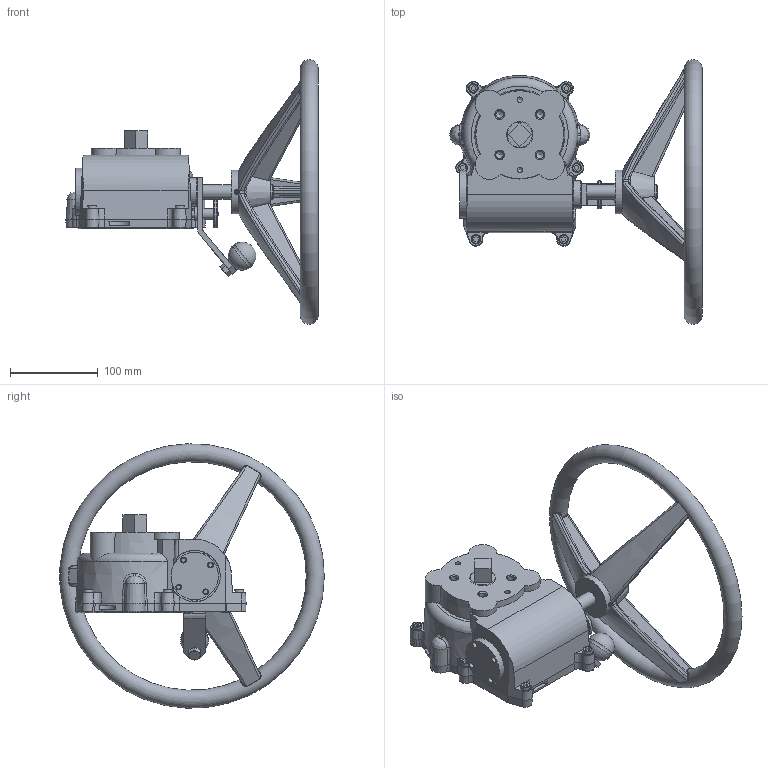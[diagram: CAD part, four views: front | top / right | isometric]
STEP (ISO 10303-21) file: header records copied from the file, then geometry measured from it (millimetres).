
FILE_DESCRIPTION( ( 'Unknown' ), '1' );
FILE_NAME( 'Z:/3D Models for Customers/K BOX/SIMPLE 09 Kbox LH.stp', 'Unknown', ( 'Unknown' ), ( 'Unknown' ), 'PSStep 17.0.49', 'Unknown', ' ' );
FILE_SCHEMA( ( 'AUTOMOTIVE_DESIGN { 1 0 10303 214 1 1 1 1 }' ) );
Length unit declared in the file: millimetre
Products named in the file (25): 93000010 Declutch Lever Assembly; 93007001 RH Lever for K-Box; 654055 Ball Knob 32dia RS686-036; M8x16 hex.hd.; 93008 Detent Housing; 93010 Flat Knob; 93009 Detent; Assem1; 93023001 Handwheel 300 M.C; 93015 Gearbox End Plate; 608183200 5 Dia x 45 Spring Pin; 606558070 Oring 161.16 I.D x 1.78 sect Formed for K-Box; M6x20; 608900100 12 Dia x 26; 93014 Gearbox Shaft; 93005002 LH Eccentric Bearing Long; 93003024 Model 09 K-Box Housing M.C; 93004003 Model 09 Base Plate M.C; DUMMY 09 SHAFT
Assembly tree (30 placements, depth 3):
  Assem1
    93023001 Handwheel 300 M.C
    93015 Gearbox End Plate
    608183200 5 Dia x 45 Spring Pin
    608183200 5 Dia x 45 Spring Pin
    608183200 5 Dia x 45 Spring Pin
    608183200 5 Dia x 45 Spring Pin
    608183200 5 Dia x 45 Spring Pin
    608183200 5 Dia x 45 Spring Pin
    608183200 5 Dia x 45 Spring Pin
    606558070 Oring 161.16 I.D x 1.78 sect Formed for K-Box
    M6x20  x6
    608900100 12 Dia x 26  x2
    93014 Gearbox Shaft
    93005002 LH Eccentric Bearing Long
    93003024 Model 09 K-Box Housing M.C
    93004003 Model 09 Base Plate M.C
    DUMMY 09 SHAFT
    93000010 Declutch Lever Assembly
      93007001 RH Lever for K-Box
      654055 Ball Knob 32dia RS686-036
      M8x16 hex.hd.
      93008 Detent Housing
      93010 Flat Knob
      93009 Detent
Bounding box: 287.83 x 301.61 x 301.39 mm (x, y, z)
Volume: 1590460.7 mm3; surface area: 352918.2 mm2
Topology: 29 solids, 29 shells, 726 faces, 1783 edges, 1132 vertices
Faces by surface type: plane 236, cylinder 200, cone 128, bspline 99, torus 47, sphere 16
Full cylindrical faces by diameter (mm): 1.3 x2, 1.6 x1, 1.78 x5, 2 x1, 2.1 x1, 2.5 x1, 2.6 x1, 3 x1, 3.1 x1, 3.242 x3, 3.3 x2, 3.5 x1, 3.6 x1, 4 x1, 4.1 x1, 4.2 x1, 4.4 x2, 4.5 x1, 4.6 x1, 5 x23, 5.001 x1, 5.1 x1, 6 x8, 6.5 x10, 6.8 x1, 8 x6, 8.1 x1, 8.376 x4, 8.5 x4, 8.7 x1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
Entity records: 41988 total; most frequent: CARTESIAN_POINT 22498, DIRECTION 2905, ORIENTED_EDGE 2618, EDGE_CURVE 1309, AXIS2_PLACEMENT_3D 1301, EDGE_LOOP 972, VERTEX_POINT 952, FACE_OUTER_BOUND 787
